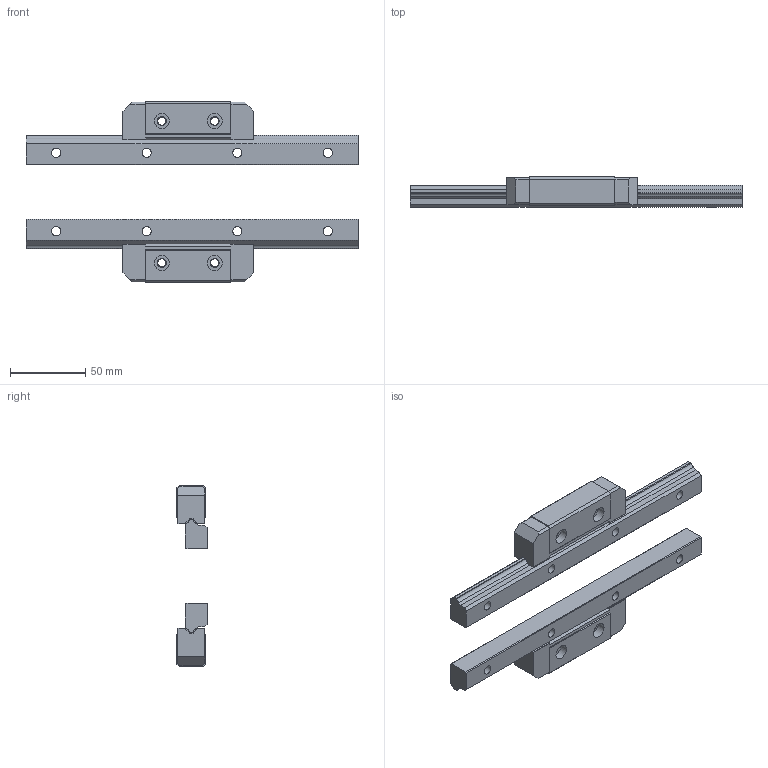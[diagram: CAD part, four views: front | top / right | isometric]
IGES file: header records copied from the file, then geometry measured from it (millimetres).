
Start section: Data from Parasolid IGES Translator 26.0.171, Copyright(c) 2006 Siemens PLM Software. All Rights Reserved.
Global section: file name: HR2042-220L_G20_52_66-7_0_0_0.igs; native system: By Siemens PLM Incorporated; preprocessor: XPlus GENERIC/IGES 26.0.171; author: Noname; organization: Noname; date: 20240521.104725; units: millimetre
Bounding box: 220 x 20 x 120 mm (x, y, z)
Surface area: 49416.7 mm2 (no closed solid volume)
Topology: 0 solids, 0 shells, 184 faces, 956 edges, 906 vertices
Faces by surface type: extrusion 140, revolution 44
